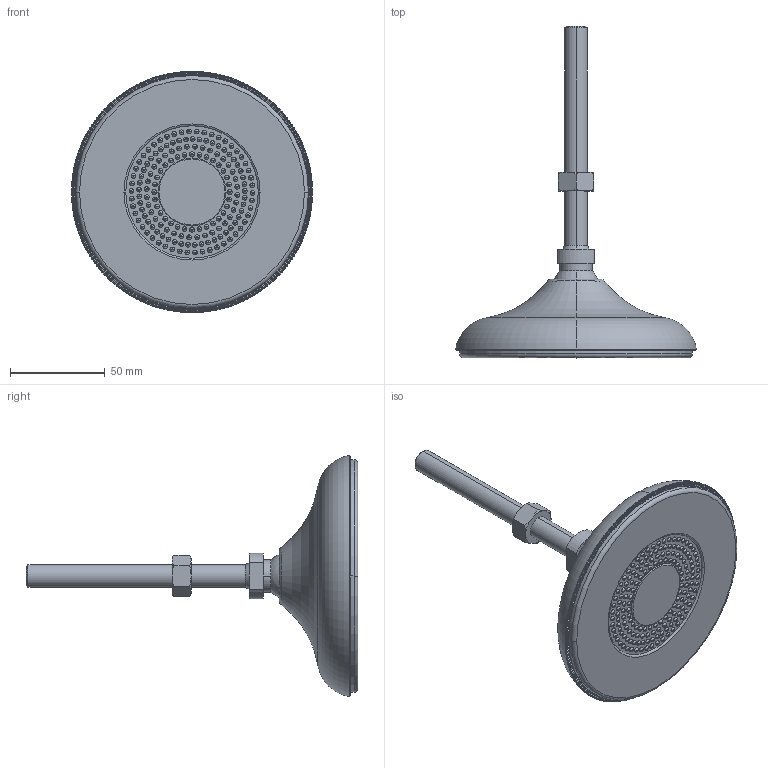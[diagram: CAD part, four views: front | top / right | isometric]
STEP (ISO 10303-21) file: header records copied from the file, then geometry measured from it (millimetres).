
FILE_DESCRIPTION (( 'STEP AP203' ), '1' );
FILE_NAME ('8774693.STEP', '2019-12-19T06:41:03', ( '' ), ( '' ), 'SwSTEP 2.0', 'SolidWorks 2019', '' );
FILE_SCHEMA (( 'CONFIG_CONTROL_DESIGN' ));
Length unit declared in the file: millimetre
Products named in the file (5): Tuerca-DIN934(M12); Eje-Bola-24-tipo-B01(MS1020605F); 8774693; Base-Pie-125(BASE-125); Base-Goma-Pie-125
Assembly tree (4 placements, depth 2):
  8774693
    Base-Pie-125(BASE-125)
    Base-Goma-Pie-125
    Tuerca-DIN934(M12)
    Eje-Bola-24-tipo-B01(MS1020605F)
Bounding box: 127.49 x 175.45 x 127.5 mm (x, y, z)
Volume: 238183.9 mm3; surface area: 80086.6 mm2
Topology: 4 solids, 4 shells, 2930 faces, 7285 edges, 4546 vertices
Faces by surface type: plane 904, torus 806, cylinder 498, cone 434, bspline 282, sphere 6
Entity records: 93978 total; most frequent: CARTESIAN_POINT 24002, DIRECTION 15354, ORIENTED_EDGE 14550, EDGE_CURVE 7275, AXIS2_PLACEMENT_3D 6517, VERTEX_POINT 4540, CIRCLE 3862, EDGE_LOOP 3119
